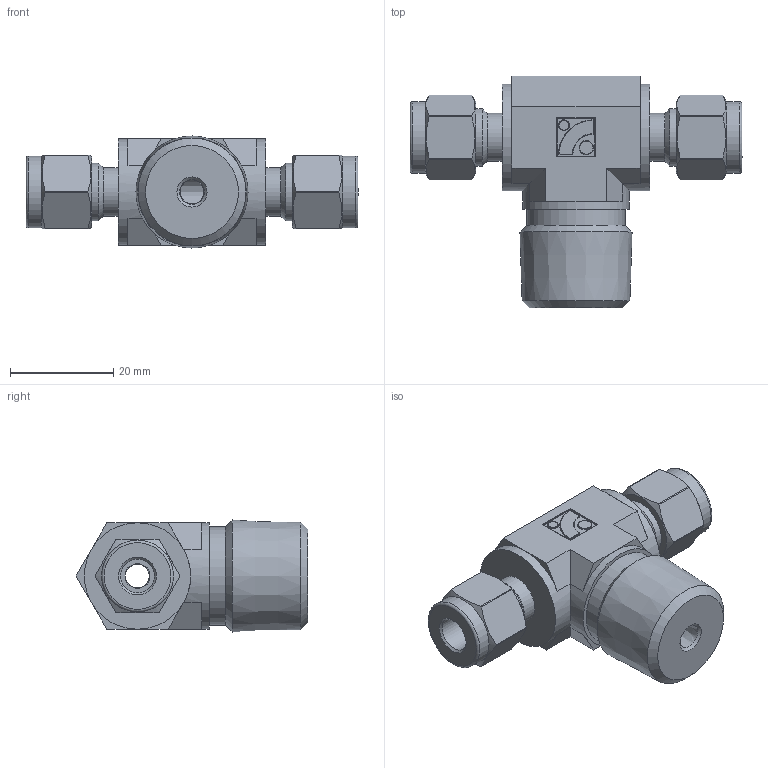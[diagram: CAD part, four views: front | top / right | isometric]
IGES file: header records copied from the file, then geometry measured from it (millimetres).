
Global section: file name: No Iges File Name specified; native system: Autodesk Inventor 2012; preprocessor: AutoDesk Inventor Iges Exporter R2012; author: 硅己绕,, ; organization: 11; date: 20150815.155148; units: millimetre
Bounding box: 64.29 x 44.89 x 21.71 mm (x, y, z)
Volume: 21340.9 mm3; surface area: 7804.4 mm2
Topology: 1 solids, 1 shells, 134 faces, 308 edges, 184 vertices
Faces by surface type: plane 58, cylinder 35, revolution 22, cone 9, torus 6, sphere 4
Full cylindrical faces by diameter (mm): 2.006 x1, 2.675 x1, 9.3 x2, 11.112 x2, 13.9 x2, 18.996 x1, 20.6 x3
